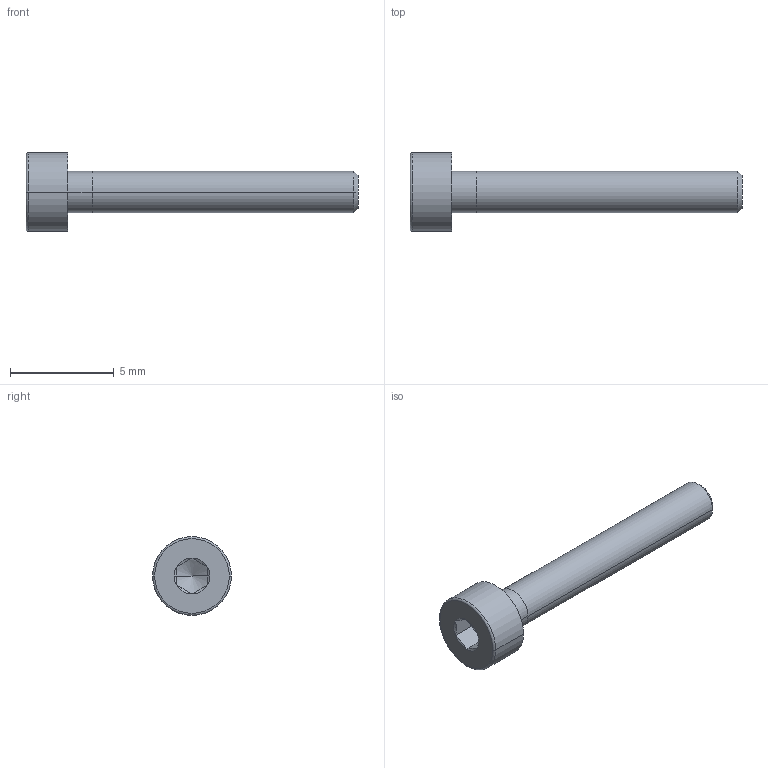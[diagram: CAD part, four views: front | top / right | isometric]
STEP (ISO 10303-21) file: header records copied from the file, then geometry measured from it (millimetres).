
FILE_DESCRIPTION(/* description */ ('VariCAD 2010-1.04 AP-203'),/* implementation_level */ '2;1');
FILE_NAME(/* name */ '0353-99-19',/* time_stamp */ '2010-01-13T14:32:13-07:00',/* author */ (''),/* organization */ (''),/* preprocessor_version */ 'ST-DEVELOPER v12',/* originating_system */ 'VariCAD 2010-1.04; kernel version (20090520)',/* authorisation */ '');
FILE_SCHEMA (('CONFIG_CONTROL_DESIGN'));
Length unit declared in the file: millimetre
Products named in the file (1): Part
Bounding box: 16 x 3.8 x 3.8 mm (x, y, z)
Volume: 64.1 mm3; surface area: 267.3 mm2
Topology: 2 solids, 2 shells, 35 faces, 72 edges, 41 vertices
Faces by surface type: cone 12, plane 11, cylinder 10, torus 2
Entity records: 1002 total; most frequent: CARTESIAN_POINT 229, DIRECTION 162, ORIENTED_EDGE 140, EDGE_CURVE 70, AXIS2_PLACEMENT_3D 70, VERTEX_POINT 41, EDGE_LOOP 39, ADVANCED_FACE 35
